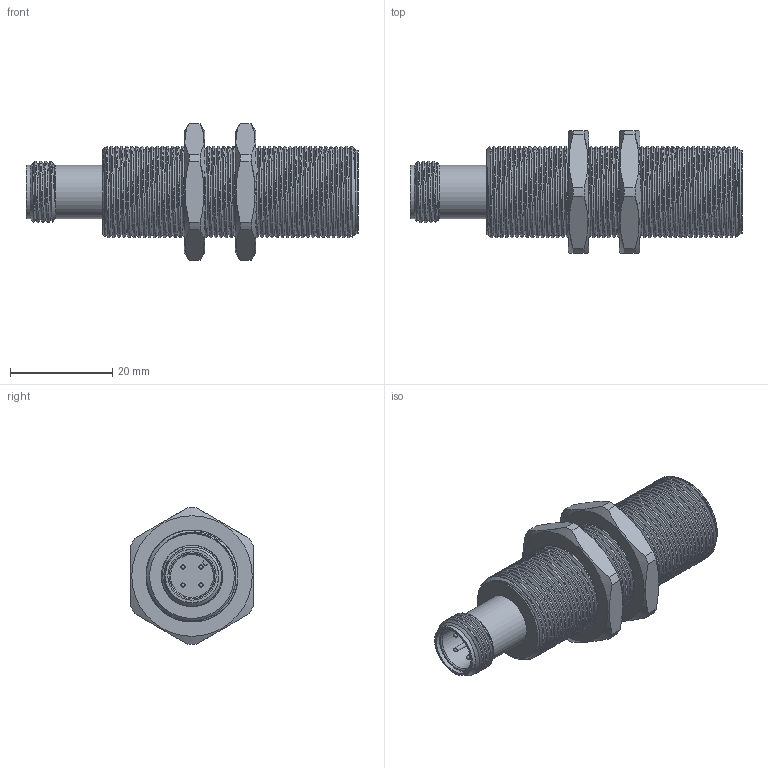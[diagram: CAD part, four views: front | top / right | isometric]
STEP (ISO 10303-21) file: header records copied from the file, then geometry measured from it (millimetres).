
FILE_DESCRIPTION( ( 'STEP AP214' ), '1' );
FILE_NAME( 'N:/Engineering/CAD_Solid/Wirbelstrom/IC/Kunden-3D-Modell/IC18-08.stp', '2011-08-10T12:11:02', ( ' ' ), ( ' ' ), 'XStep 1.0', ' ', ' ' );
FILE_SCHEMA( ( 'CONFIG_CONTROL_DESIGN) ( )' ) );
Length unit declared in the file: metre
Products named in the file (3): 101474; 1
Bounding box: 65 x 24 x 26.8 mm (x, y, z)
Surface area: 7256.5 mm2 (no closed solid volume)
Topology: 0 solids, 71 shells, 72 faces, 317 edges, 287 vertices
Faces by surface type: plane 26, cylinder 24, cone 14, bspline 4, sphere 4
Full cylindrical faces by diameter (mm): 0.8 x4, 9.45 x1, 10.45 x2, 16.4 x1
Entity records: 11634 total; most frequent: CARTESIAN_POINT 8900, DIRECTION 456, ORIENTED_EDGE 266, EDGE_CURVE 266, VERTEX_POINT 266, AXIS2_PLACEMENT_3D 196, CIRCLE 126, FACE_BOUND 105
